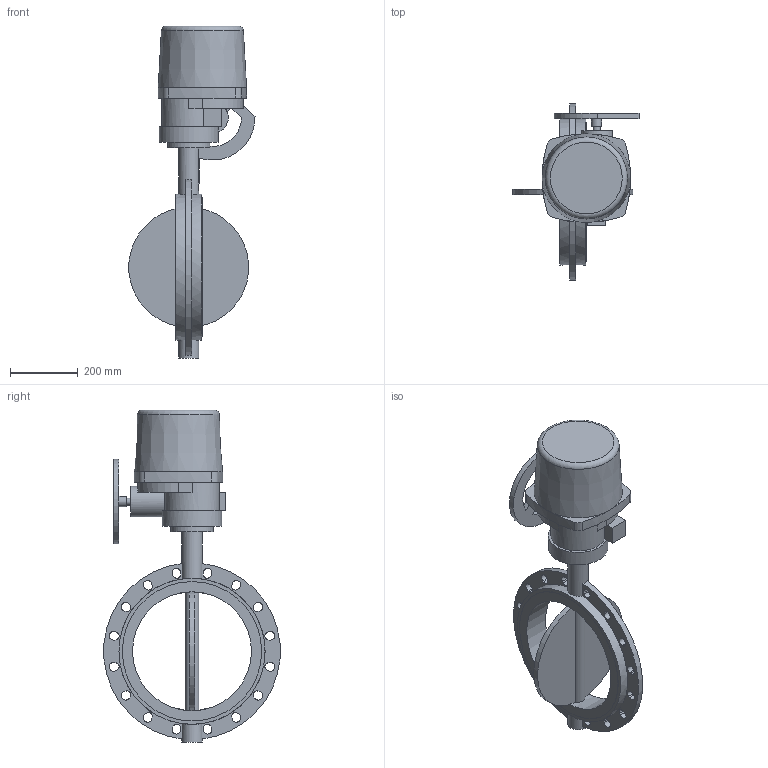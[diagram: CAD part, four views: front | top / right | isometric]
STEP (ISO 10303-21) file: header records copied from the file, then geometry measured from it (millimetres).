
FILE_DESCRIPTION(('STEP AP203'), '1');
FILE_NAME('青蜮铕 017WDN350+菹 QT80-1', '', ('UNSPECIFIED'), ('UNSPECIFIED'), 'ASCON STEP Converter 1.6', 'ASCON Math Kernel', '');
FILE_SCHEMA(('CONFIG_CONTROL_DESIGN'));
Length unit declared in the file: millimetre
Bounding box: 370.85 x 518.08 x 977 mm (x, y, z)
Volume: 15715433.9 mm3; surface area: 1193056.6 mm2
Topology: 1 solids, 2 shells, 790 faces, 2314 edges, 1496 vertices
Faces by surface type: cylinder 549, plane 239, cone 1, torus 1
Full cylindrical faces by diameter (mm): 10 x4, 12 x4, 20.595 x1, 30 x1, 31.6 x1, 60 x2, 70 x1, 90 x1, 125 x1, 175 x1, 350 x1, 410 x2, 430 x2
Entity records: 33952 total; most frequent: CARTESIAN_POINT 5548, DIRECTION 5012, ORIENTED_EDGE 4519, EDGE_CURVE 2291, AXIS2_PLACEMENT_3D 1956, VERTEX_POINT 1496, CIRCLE 1165, LINE 1100
